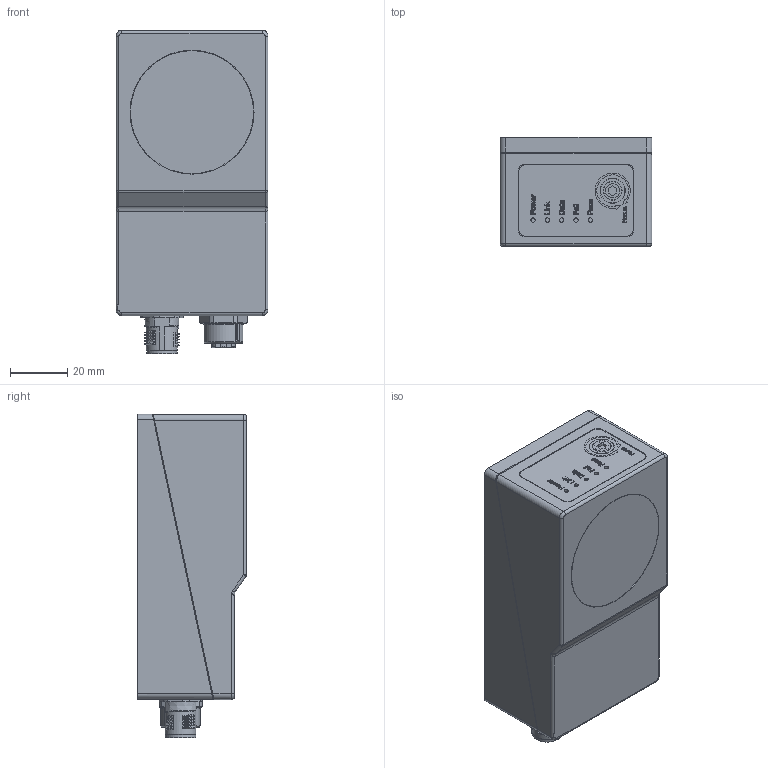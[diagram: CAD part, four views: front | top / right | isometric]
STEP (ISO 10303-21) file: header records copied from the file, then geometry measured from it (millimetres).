
FILE_DESCRIPTION( ( '' ), '1' );
FILE_NAME( 'C:/Users/stw/Desktop/Anja L/marketing 151201/11039656 151201.stp', '151201', ( 'stw' ), ( 'Baumer Optronic GmbH' ), 'PSStep 15.0.49', 'ST5', ' ' );
FILE_SCHEMA( ( 'AUTOMOTIVE_DESIGN { 1 0 10303 214 1 1 1 1 }' ) );
Length unit declared in the file: millimetre
Products named in the file (2): 11039557
Bounding box: 53 x 38.02 x 112.94 mm (x, y, z)
Volume: 190918.1 mm3; surface area: 29582.8 mm2
Topology: 2 solids, 6 shells, 877 faces, 2270 edges, 1498 vertices
Faces by surface type: plane 515, cylinder 154, extrusion 73, bspline 70, cone 29, torus 22, sphere 14
Full cylindrical faces by diameter (mm): 0.63 x12, 1 x5, 1.5 x5, 4 x4, 5 x1, 6.4 x1, 6.6 x1, 8.25 x1, 8.8 x1, 10.7 x1, 11 x3, 43 x1
Entity records: 42736 total; most frequent: CARTESIAN_POINT 16122, ORIENTED_EDGE 4280, DIRECTION 3327, EDGE_CURVE 2140, VERTEX_POINT 1462, VECTOR 1223, LINE 1150, EDGE_LOOP 1062
